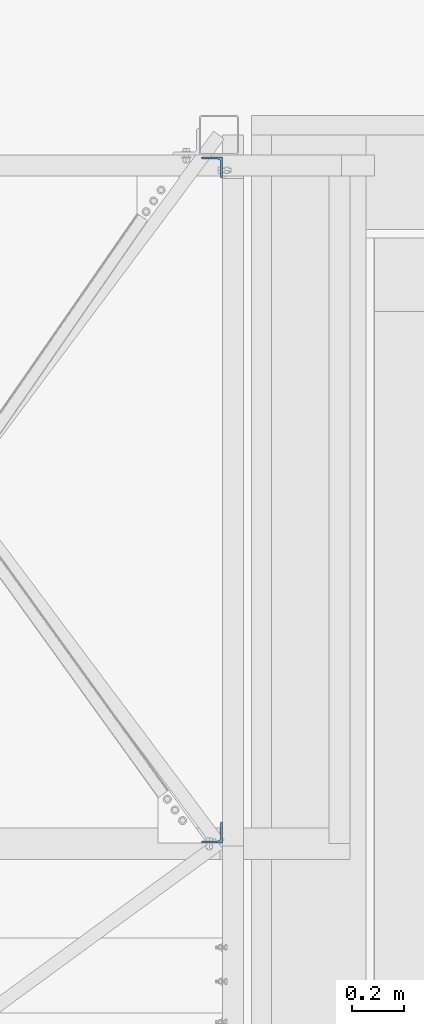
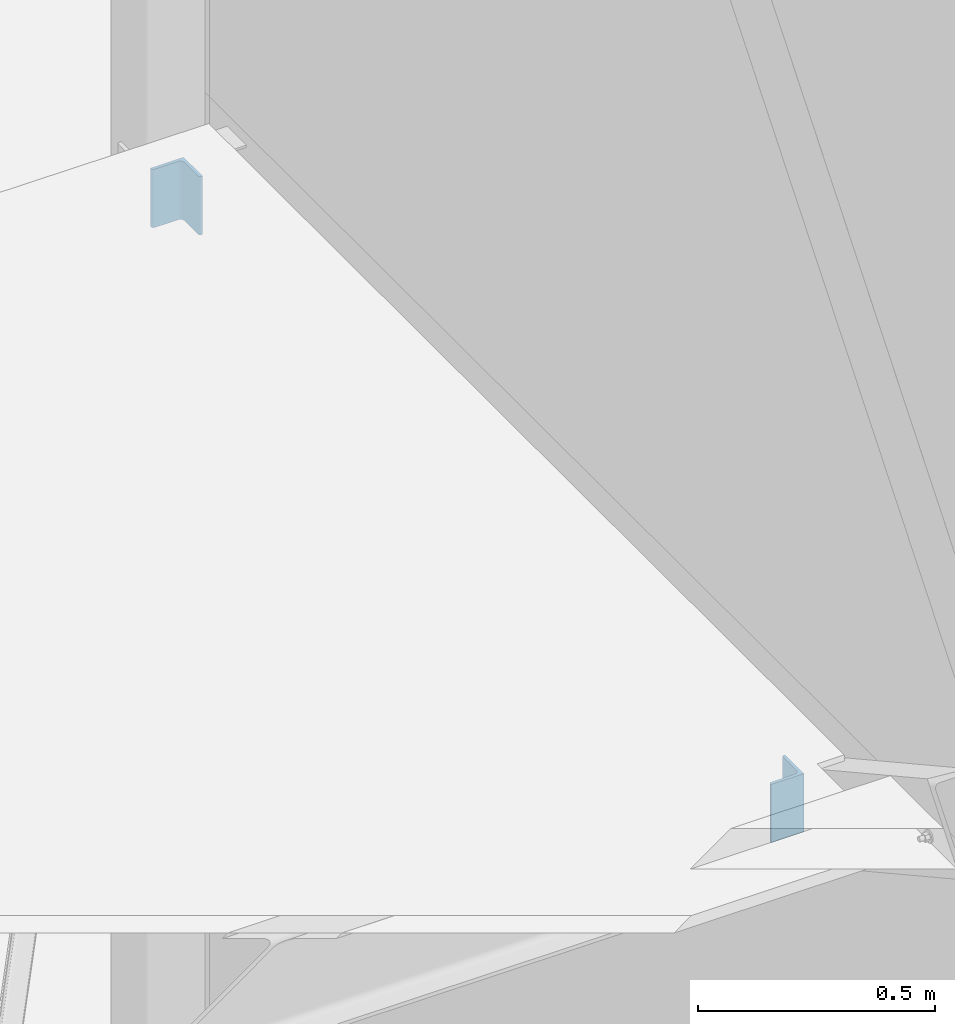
# One storey, part 48 of 78: 2 beams, 2 elements without a shape of their own.
"""IFC2X3 building model written with IfcOpenShell, lengths in millimetres."""

from ifc_helpers import new_model, si_unit, frame, origin_with_axes, origin_2d_with_axis, place, context, subcontext, project, spatial, l_section, extrude, material, type_object, element, aggregate, save


model = new_model("IFC2X3")

# Units and contexts
model_context = context("Model", 3, precision=1e-05, world=origin_with_axes())
body_context = subcontext(model_context, "Body", "Model", "MODEL_VIEW")
ifc_project = project(units=[si_unit("LENGTHUNIT", "METRE", prefix="MILLI"), si_unit("AREAUNIT", "SQUARE_METRE"), si_unit("VOLUMEUNIT", "CUBIC_METRE"), si_unit("MASSUNIT", "GRAM", prefix="KILO"), si_unit("TIMEUNIT", "SECOND"), si_unit("PLANEANGLEUNIT", "RADIAN"), si_unit("SOLIDANGLEUNIT", "STERADIAN"), si_unit("THERMODYNAMICTEMPERATUREUNIT", "DEGREE_CELSIUS"), si_unit("LUMINOUSINTENSITYUNIT", "LUMEN")], contexts=[model_context])

# Site, building, storey
site_placement = place(None, origin_with_axes())
site = spatial("IfcSite", under=ifc_project, at=site_placement, Name="Site", CompositionType="ELEMENT")
building_placement = place(site_placement, origin_with_axes())
building = spatial("IfcBuilding", under=site, at=building_placement, Name="Undefined", CompositionType="ELEMENT")
storey_placement = place(building_placement, origin_with_axes())
storey = spatial("IfcBuildingStorey", under=building, at=storey_placement, Name="Undefined", CompositionType="ELEMENT", Elevation=0.0)

# Assembly, beam
assembly_1_placement = place(storey_placement, origin_with_axes())
assembly_1 = element("IfcElementAssembly", 1, at=assembly_1_placement, inside=storey, AssemblyPlace="NOTDEFINED", PredefinedType="RIGID_FRAME")
ifc_material = material(Name="STEEL/S235JR")
beam_type = type_object("IfcBeamType", Name="L80*8", PredefinedType="NOTDEFINED")
beam_1_placement = place(assembly_1_placement, frame((-31222.8600000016, 10151.0999999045, 156635.04), z_axis=(-1.0, 0.0, 0.0), x_axis=(0.0, 0.0, -1.0)))
beam_1 = element("IfcBeam", 2, at=beam_1_placement, type_object=beam_type, material=ifc_material, Name="CORNIERE", ObjectType="L80*8", context=body_context, shape_type="SweptSolid", body=[
    extrude(l_section(Depth=80.0, Width=80.0, Thickness=8.0, FilletRadius=10.0, EdgeRadius=5.0, at=origin_2d_with_axis()), frame((150.0, 0.0, 0.0), z_axis=(-1.0, 0.0, 0.0), x_axis=(0.0, -1.0, 0.0)), (0.0, 0.0, 1.0), 150.0),
])
aggregate(assembly_1, [beam_1])

assembly_2_placement = place(storey_placement, origin_with_axes())
assembly_2 = element("IfcElementAssembly", 3, at=assembly_2_placement, inside=storey, AssemblyPlace="NOTDEFINED", PredefinedType="RIGID_FRAME")
beam_2_placement = place(assembly_2_placement, frame((-31222.8600000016, 12684.0, 156635.039999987), z_axis=(0.0, -1.0, 0.0), x_axis=(0.0, 0.0, -1.0)))
beam_2 = element("IfcBeam", 4, at=beam_2_placement, type_object=beam_type, material=ifc_material, Name="CORNIERE", ObjectType="L80*8", context=body_context, shape_type="SweptSolid", body=[
    extrude(l_section(Depth=80.0, Width=80.0, Thickness=8.0, FilletRadius=10.0, EdgeRadius=5.0, at=origin_2d_with_axis()), frame((150.0, 0.0, 0.0), z_axis=(-1.0, 0.0, 0.0), x_axis=(0.0, -1.0, 0.0)), (0.0, 0.0, 1.0), 150.0),
])
aggregate(assembly_2, [beam_2])

save(model, "model.ifc")
